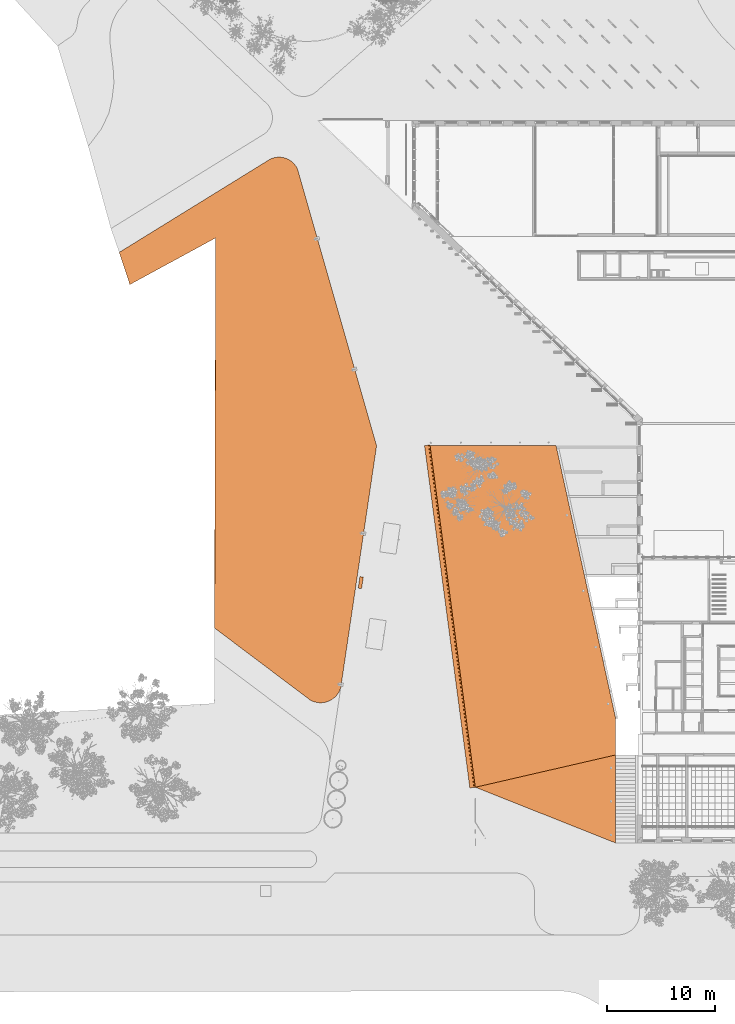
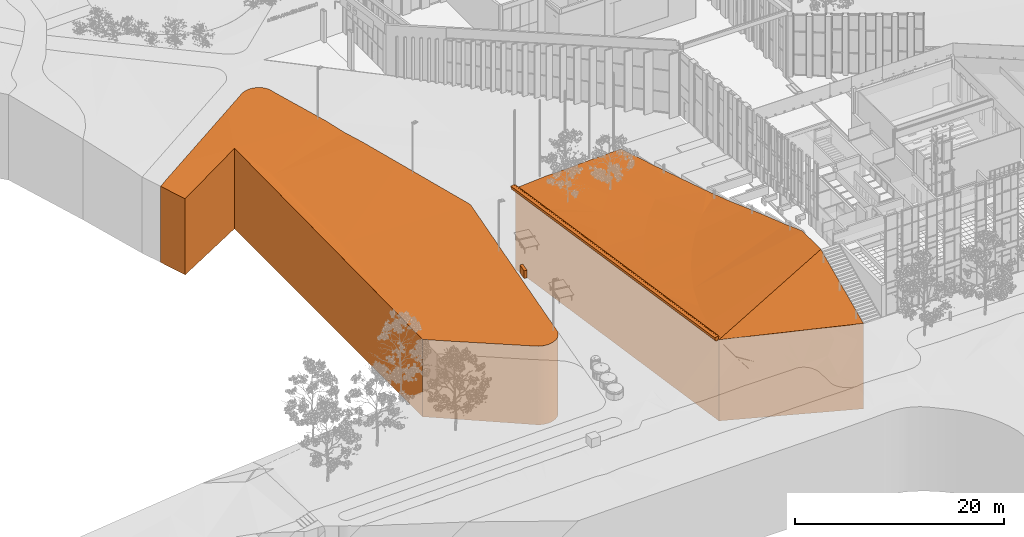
# One storey, part 216 of 246: 4 proxies.
"""IFC2X3 building model written with IfcOpenShell, lengths in millimetres."""

from ifc_helpers import new_model, entity, si_unit, converted_unit, derived_unit, money_unit, direction, frame, origin_with_axes, place, context, subcontext, project, spatial, faceted_brep, material, material_list, type_object, element, save


model = new_model("IFC2X3")

# Units and contexts
model_context = context("Model", 3, precision=0.01, world=origin_with_axes(), true_north=direction((0.0, 1.0)))
body_context = subcontext(model_context, "Body", "Model", "MODEL_VIEW")
ifc_project = project(units=[si_unit("LENGTHUNIT", "METRE", prefix="MILLI"), si_unit("AREAUNIT", "SQUARE_METRE"), si_unit("VOLUMEUNIT", "CUBIC_METRE"), converted_unit("PLANEANGLEUNIT", "DEGREE", entity("IfcPlaneAngleMeasure", 0.0174532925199), si_unit("PLANEANGLEUNIT", "RADIAN"), dimensions=[0, 0, 0, 0, 0, 0, 0]), si_unit("SOLIDANGLEUNIT", "STERADIAN"), money_unit("EUR"), converted_unit("TIMEUNIT", "Year", entity("IfcTimeMeasure", 31556926.0), si_unit("TIMEUNIT", "SECOND"), dimensions=[0, 0, 1, 0, 0, 0, 0]), si_unit("MASSUNIT", "GRAM", prefix="KILO"), si_unit("THERMODYNAMICTEMPERATUREUNIT", "DEGREE_CELSIUS"), si_unit("LUMINOUSINTENSITYUNIT", "LUMEN"), si_unit("ENERGYUNIT", "JOULE", prefix="MEGA"), derived_unit("THERMALCONDUCTANCEUNIT", [(si_unit("POWERUNIT", "WATT"), 1), (si_unit("LENGTHUNIT", "METRE"), -1), (si_unit("THERMODYNAMICTEMPERATUREUNIT", "KELVIN"), -1)]), derived_unit("SPECIFICHEATCAPACITYUNIT", [(si_unit("ENERGYUNIT", "JOULE"), 1), (si_unit("MASSUNIT", "GRAM", prefix="KILO"), -1), (si_unit("THERMODYNAMICTEMPERATUREUNIT", "KELVIN"), -1)]), derived_unit("MASSDENSITYUNIT", [(si_unit("MASSUNIT", "GRAM", prefix="KILO"), 1), (si_unit("VOLUMEUNIT", "CUBIC_METRE"), -1)])], contexts=[model_context])

# Site, building, storey
site_placement = place(None, origin_with_axes())
site = spatial("IfcSite", under=ifc_project, at=site_placement, Name="L.Koidula tn 11b", CompositionType="ELEMENT")
building_placement = place(site_placement, origin_with_axes())
building = spatial("IfcBuilding", under=site, at=building_placement, Name="Rakvere Riigigümnaasium", CompositionType="ELEMENT")
storey_placement = place(building_placement, origin_with_axes())
storey = spatial("IfcBuildingStorey", under=building, at=storey_placement, Name="1.korrus 0,00", CompositionType="ELEMENT", Elevation=0.0)

# Proxies
ifc_material_1 = material(Name="Roheala")
building_element_proxy_type_1 = type_object("IfcBuildingElementProxyType", Name="Roheala", PredefinedType="NOTDEFINED")
proxy_1_placement = place(storey_placement, frame((15776.7035882, 4985.57217605, -10000.0), z_axis=(0.0, 0.0, 1.0), x_axis=(1.0, 0.0, 0.0)))
element("IfcBuildingElementProxy", 1, at=proxy_1_placement, inside=storey, type_object=building_element_proxy_type_1, material=ifc_material_1, Name="Roheala", context=body_context, shape_type="Brep", body=[
    faceted_brep([(7059.96621689, 15493.6348086, 10414.8499999), (5915.26997917, 13048.2833526, 10098.983345), (16683.3088663, 14124.8833492, 13235.0), (2814.38927034, 15647.5324708, 9479.82855391), (17209.2963819, 11714.9063542, 13720.0), (8470.46516382, 17795.9306064, 10768.0778409), (5050.68359697, 10490.4398063, 9923.17591582), (3673.62801673, 18228.2188393, 9755.24278903), (11709.2964639, 36914.8833156, 0.0), (11709.2964639, 36914.8833156, 9976.19260805), (12711.1384335, 32324.6296924, 10445.0), (13530.6251232, 28569.8940544, 10910.0), (14315.2512073, 24974.8832293, 11375.0), (14991.8390912, 21874.8833492, 11840.0), (15515.6490861, 19474.8833492, 12305.0), (16072.1972056, 16924.8833492, 12770.0), (17209.2963819, 11714.9063542, 0.0), (17209.2964639, 8160.88336282, 13720.0), (4477.01322433, 7852.07373552, 9689.62506615), (1676.83143874, 24243.6571087, 9463.28527354), (9711.68796741, 36913.6274559, 0.0), (9711.68796741, 36913.6274559, 9904.52000427), (11900.6444297, 28840.5491743, 10910.0), (14105.2350344, 23567.7994806, 11412.4748353), (12015.2520806, 21858.4006177, 11373.5296607), (10129.1375012, 19926.3951794, 11055.5018643), (17209.2964639, 8160.88336282, 0.0), (17209.513464, 0.0, 0.0), (4201.42896078, 5166.16112832, 0.0), (0.0, 36914.8828201, 0.0), (5516.05311886, 36911.1168794, 0.0), (4817.60246788, 20695.9213762, 10021.4023311), (4201.42896078, 5166.16112832, 9500.0), (661.08497945, 31919.2960273, 9448.51347207), (0.0, 36914.8828201, 9438.89944291), (5516.05311886, 36911.1168794, 9749.85487511), (7591.89065814, 36912.359016, 9850.0), (8632.26220373, 32152.4466509, 10445.0), (9795.9271619, 27117.6450626, 10694.2716784), (17209.513464, 0.0, 10000.0), (1314.24045924, 36913.9855569, 9549.48697168), (3418.23752959, 36912.549108, 9699.68480312), (3078.18180783, 26496.3918323, 9814.24890973), (917.964606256, 32249.242414, 9593.02701112), (6231.80236279, 23019.3395505, 10275.5653956), (4894.06213944, 35890.6467152, 9872.332819), (7898.28987993, 25169.0029452, 10521.4405577), (2804.07918557, 34181.2478523, 9854.35857742), (4718.17091787, 28581.8251952, 10098.0577358), (6577.00821667, 30474.791251, 10279.5694751)], [[[0, 1, 2]], [[3, 1, 0]], [[4, 2, 1]], [[5, 0, 2]], [[3, 6, 1]], [[3, 0, 7]], [[8, 9, 10, 11, 12, 13, 14, 15, 2, 4, 16]], [[17, 4, 1]], [[0, 5, 7]], [[2, 15, 5]], [[3, 18, 6]], [[1, 6, 17]], [[19, 3, 7]], [[20, 21, 9, 8]], [[9, 21, 10]], [[11, 10, 22]], [[11, 22, 12]], [[13, 12, 23]], [[13, 24, 14]], [[15, 14, 25]], [[16, 4, 17, 26]], [[8, 16, 26, 27, 28, 29, 30, 20]], [[31, 7, 5]], [[25, 5, 15]], [[3, 32, 18]], [[6, 18, 17]], [[28, 32, 3, 19, 33, 34, 29]], [[19, 7, 31]], [[30, 35, 36, 21, 20]], [[21, 37, 10]], [[10, 37, 22]], [[22, 38, 12]], [[23, 12, 24]], [[13, 23, 24]], [[24, 25, 14]], [[26, 17, 39, 27]], [[27, 39, 32, 28]], [[29, 34, 40, 41, 35, 30]], [[5, 25, 31]], [[32, 17, 18]], [[33, 19, 42]], [[34, 33, 43]], [[19, 31, 44]], [[35, 45, 36]], [[21, 36, 37]], [[22, 37, 38]], [[24, 12, 38]], [[25, 24, 46]], [[39, 17, 32]], [[40, 34, 47]], [[41, 40, 47]], [[41, 45, 35]], [[44, 31, 25]], [[19, 44, 42]], [[33, 42, 48]], [[33, 48, 43]], [[34, 43, 47]], [[37, 36, 45]], [[49, 38, 37]], [[38, 46, 24]], [[46, 44, 25]], [[41, 47, 45]], [[46, 42, 44]], [[42, 46, 48]], [[47, 43, 48]], [[49, 37, 45]], [[48, 38, 49]], [[38, 48, 46]], [[45, 47, 49]], [[49, 47, 48]]]),
])
proxy_2_placement = place(storey_placement, frame((-13116.1750762, 18002.726002, -10000.0), z_axis=(0.0, 0.0, 1.0), x_axis=(1.0, 0.0, 0.0)))
element("IfcBuildingElementProxy", 2, at=proxy_2_placement, inside=storey, type_object=building_element_proxy_type_1, material=ifc_material_1, Name="Roheala", context=body_context, shape_type="Brep", body=[
    faceted_brep([(21276.8812346, 33137.4453129, 9499.66342909), (21279.6921919, 33127.6076146, 9499.74450561), (23919.8446626, 23887.6866131, 9300.0), (23919.8446543, 23887.6866118, 0.0), (16579.3092395, 49577.857281, 0.0), (16579.3092395, 49577.857281, 9715.4528541), (16756.6122539, 48957.3378715, 9695.52241912), (16910.4609667, 48418.9030757, 9690.19038014), (18630.1146851, 42400.514086, 9699.33273266), (18635.9417936, 42380.1205584, 9699.4394465), (18638.7217983, 42370.3911872, 9698.96394006), (19297.8119996, 40063.7284165, 9549.3318623), (19957.2018374, 37756.0169873, 9599.35898755), (10216.6094138, 37870.0389402, 9130.0), (10206.14164, 24693.7330681, 9110.0), (21353.9402393, 6563.24369116, 9232.6537921), (20591.9784313, 1418.63901514, 9243.63252766), (20591.9784313, 1418.63901514, 0.0), (22259.8297422, 12679.6176656, 9250.0), (21449.5671846, 7208.89656354, 9237.69747041), (20563.7815193, 1324.06584314, 0.0), (20513.523049, 1192.1565167, 0.0), (20453.87731, 1064.21758576, 0.0), (20385.1552674, 940.916064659, 0.0), (20307.7152063, 822.894790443, 0.0), (20221.9608632, 710.769071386, 0.0), (20128.3393215, 605.123479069, 0.0), (20027.3386807, 506.508800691, 0.0), (19919.4855113, 415.439167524, 0.0), (19805.3421098, 332.389374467, 0.0), (19685.503567, 257.792404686, 0.0), (19560.5946657, 192.037172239, 0.0), (19431.2666229, 135.466494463, 0.0), (19298.1936952, 88.3753046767, 0.0), (19162.0696633, 51.0091145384, 0.0), (19023.6042147, 23.562734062, 0.0), (18883.5192444, 6.17925596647, 0.0), (18742.5450903, -1.05069034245, 0.0), (18601.4167265, 1.91058872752, 0.0), (18460.869931, 15.0476544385, 0.0), (18321.6374495, 38.2920162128, 0.0), (18184.445176, 71.5224887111, 0.0), (18050.0083672, 114.565823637, 0.0), (17919.0279145, 167.197612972, 0.0), (17792.1866893, 229.143458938, 0.0), (17731.1663362, 264.611931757, 0.0), (8851.80878225, 6953.5675484, 0.0), (8958.46702321, 43199.7824755, 0.0), (988.489768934, 38866.2151216, 0.0), (0.0, 41861.2564464, 0.0), (13953.4886778, 50480.4994572, 0.0), (14101.9841559, 50554.4165839, 0.0), (14230.0706255, 50604.6435082, 0.0), (14361.4817268, 50645.3867292, 0.0), (14495.5163249, 50676.4288641, 0.0), (14631.459287, 50697.6042898, 0.0), (14768.5852988, 50708.8000262, 0.0), (14906.1627335, 50709.9563391, 0.0), (15043.4575561, 50701.0670592, 0.0), (15179.7372393, 50682.1796145, 0.0), (15314.2746719, 50653.3947779, 0.0), (15446.3520387, 50614.8661288, 0.0), (15575.2646496, 50566.7992343, 0.0), (15700.3247002, 50509.450552, 0.0), (15820.8649409, 50443.126062, 0.0), (15936.2422375, 50368.1796341, 0.0), (16045.841002, 50285.0111399, 0.0), (16149.0764778, 50194.0643194, 0.0), (16245.3978588, 50095.8244132, 0.0), (16334.2912288, 49990.8155737, 0.0), (16415.2823032, 49879.5980684, 0.0), (16487.9389596, 49762.765291, 0.0), (16551.8735433, 49640.9405947, 0.0), (16551.8735433, 49640.9405947, 9717.04185842), (16487.9389596, 49762.765291, 9719.60175344), (16415.2823032, 49879.5980684, 9721.52987673), (16334.2912288, 49990.8155737, 9722.8159409), (16245.3978588, 50095.8244132, 9723.45308424), (16149.0764778, 50194.0643194, 9723.43790732), (16045.841002, 50285.0111399, 9722.77049111), (15936.2422375, 50368.1796341, 9721.45439657), (15820.8649409, 50443.126062, 9719.49664564), (15700.3247002, 50509.450552, 9716.90768376), (15575.2646496, 50566.7992343, 9713.70132415), (15446.3520387, 50614.8661288, 9709.89467415), (15314.2746719, 50653.3947779, 9705.50804387), (15179.7372393, 50682.1796145, 9700.56483788), (15043.4575561, 50701.0670592, 9695.09143033), (14906.1627335, 50709.9563391, 9689.11702422), (14768.5852988, 50708.8000262, 9682.67349558), (14631.459287, 50697.6042898, 9675.79522342), (14495.5163249, 50676.4288641, 9668.51890632), (14361.4817268, 50645.3867292, 9660.88336656), (14230.0706255, 50604.6435082, 9652.92934305), (14101.9841559, 50554.4165839, 9644.69927396), (13953.488676, 50480.4994602, 9634.44576586), (13491.0897518, 50194.86991, 9600.0), (11477.4942666, 48951.047004, 9500.0), (8958.46702423, 43199.7824771, 9400.0), (10016.8495213, 37879.8361506, 9130.0), (10006.3817475, 24703.5302786, 9110.0), (22256.3753339, 12773.5376558, 9250.0), (11174.846754, 5203.58757578, 9075.74893717), (17731.1663362, 264.611931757, 9203.01308165), (17792.1866893, 229.143458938, 9204.15023148), (17919.0279145, 167.197612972, 9206.46090221), (18050.0083672, 114.565823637, 9208.79589727), (18184.445176, 71.5224887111, 9211.14304307), (18321.6374495, 38.2920162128, 9213.49010268), (18460.869931, 15.0476544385, 9215.82483962), (18601.4167265, 1.91058872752, 9218.13508165), (18742.5450903, -1.05069034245, 9220.40878423), (18883.5192444, 6.17925596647, 9222.63409334), (19023.6042147, 23.562734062, 9224.79940725), (19162.0696633, 51.0091145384, 9226.893437), (19298.1936952, 88.3753046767, 9228.90526531), (19431.2666229, 135.466494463, 9230.82440342), (19560.5946657, 192.037172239, 9232.64084584), (19685.503567, 257.792404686, 9234.34512248), (19805.3421098, 332.389374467, 9235.92834803), (19919.4855113, 415.439167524, 9237.38226829), (20027.3386807, 506.508800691, 9238.69930319), (20128.3393215, 605.123479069, 9239.87258631), (20221.9608632, 710.769071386, 9240.89600071), (20307.7152063, 822.894790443, 9241.76421077), (20385.1552674, 940.916064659, 9242.47269006), (20453.87731, 1064.21758576, 9243.01774488), (20513.523049, 1192.1565167, 9243.39653357), (20563.7815193, 1324.06584314, 9243.60708131), (9087.59483864, 13155.6743904, 9090.0), (9425.85230822, 6521.13179571, 9057.53825505), (8861.19259545, 6946.49857864, 9038.29199196), (8851.8087826, 6953.5675484, 9048.12850532), (9260.23487885, 6645.89393392, 9058.14869603), (9218.02354218, 6677.69237833, 9058.29434071), (8971.0199709, 6863.76393986, 9062.1647646), (988.489769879, 38866.2151226, 8900.0), (9.82952386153e-07, 41861.2564481, 8900.0), (1409.5168406, 42731.9324817, 9000.0), (3423.11232591, 43975.7553867, 9100.0), (8887.83494615, 13165.4716008, 9090.0)], [[[0, 1, 2, 3, 4, 5, 6, 7, 8, 9, 10, 11, 12]], [[1, 0, 13, 14]], [[2, 1, 14]], [[15, 16, 17, 3, 2, 18, 19]], [[3, 17, 20, 21, 22, 23, 24, 25, 26, 27, 28, 29, 30, 31, 32, 33, 34, 35, 36, 37, 38, 39, 40, 41, 42, 43, 44, 45, 46, 47, 48, 49, 50, 51, 52, 53, 54, 55, 56, 57, 58, 59, 60, 61, 62, 63, 64, 65, 66, 67, 68, 69, 70, 71, 72, 4]], [[73, 5, 4, 72]], [[6, 5, 73, 74, 75, 76, 77, 78, 79, 80, 81, 82, 83, 84, 85, 86, 87, 88, 89, 90, 91, 92, 93, 94, 95, 96]], [[7, 6, 96, 97]], [[8, 7, 97]], [[9, 8, 97, 98]], [[10, 9, 98, 13]], [[11, 10, 13]], [[12, 11, 13]], [[0, 12, 13]], [[99, 100, 14, 13]], [[2, 14, 101]], [[16, 15, 102, 103, 104, 105, 106, 107, 108, 109, 110, 111, 112, 113, 114, 115, 116, 117, 118, 119, 120, 121, 122, 123, 124, 125, 126, 127, 128]], [[16, 128, 20, 17]], [[18, 2, 101]], [[19, 18, 101, 129]], [[15, 19, 129, 130, 102]], [[128, 127, 21, 20]], [[127, 126, 22, 21]], [[126, 125, 23, 22]], [[125, 124, 24, 23]], [[124, 123, 25, 24]], [[123, 122, 26, 25]], [[122, 121, 27, 26]], [[121, 120, 28, 27]], [[120, 119, 29, 28]], [[119, 118, 30, 29]], [[118, 117, 31, 30]], [[117, 116, 32, 31]], [[116, 115, 33, 32]], [[115, 114, 34, 33]], [[114, 113, 35, 34]], [[113, 112, 36, 35]], [[112, 111, 37, 36]], [[111, 110, 38, 37]], [[110, 109, 39, 38]], [[109, 108, 40, 39]], [[108, 107, 41, 40]], [[107, 106, 42, 41]], [[106, 105, 43, 42]], [[105, 104, 44, 43]], [[104, 103, 45, 44]], [[131, 132, 46, 45, 103, 102, 130, 133, 134, 135]], [[132, 98, 47, 46]], [[98, 136, 48, 47]], [[136, 137, 49, 48]], [[96, 95, 50, 49, 137, 138, 139, 97]], [[95, 94, 51, 50]], [[94, 93, 52, 51]], [[93, 92, 53, 52]], [[92, 91, 54, 53]], [[91, 90, 55, 54]], [[90, 89, 56, 55]], [[89, 88, 57, 56]], [[88, 87, 58, 57]], [[87, 86, 59, 58]], [[86, 85, 60, 59]], [[85, 84, 61, 60]], [[84, 83, 62, 61]], [[83, 82, 63, 62]], [[82, 81, 64, 63]], [[81, 80, 65, 64]], [[80, 79, 66, 65]], [[79, 78, 67, 66]], [[78, 77, 68, 67]], [[77, 76, 69, 68]], [[76, 75, 70, 69]], [[75, 74, 71, 70]], [[74, 73, 72, 71]], [[97, 139, 98]], [[98, 99, 13]], [[99, 98, 100]], [[14, 100, 140, 129]], [[14, 129, 101]], [[133, 130, 129]], [[98, 132, 131, 140]], [[134, 133, 129, 140]], [[135, 134, 140]], [[131, 135, 140]], [[136, 98, 139]], [[137, 136, 138]], [[139, 138, 136]], [[100, 98, 140]]]),
])
ifc_material_2 = material(Name="Betoon")
ifc_material_3 = material(Name="Puit-pink")
ifc_material_list = material_list([ifc_material_2, ifc_material_3])
building_element_proxy_type_2 = type_object("IfcBuildingElementProxyType", Name="PINK llaudisega 514 x 450", PredefinedType="NOTDEFINED")
proxy_3_placement = place(storey_placement, frame((15978.1520182, 41993.8512751, -508.771151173), z_axis=(0.0, 0.0, 1.0), x_axis=(-0.99135723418, -0.131190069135, 0.0)))
element("IfcBuildingElementProxy", 3, at=proxy_3_placement, inside=storey, type_object=building_element_proxy_type_2, material=ifc_material_list, Name="Pink", context=body_context, shape_type="Brep", body=[
    faceted_brep([(330.567966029, 32091.4668622, 413.771818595), (327.006798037, 32091.4668622, 413.771819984), (327.006798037, 0.0, 352.545426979), (330.567966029, 0.0, 352.54542559), (662.126380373, 32091.4668622, 413.771819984), (666.056743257, 32091.4668622, 411.86248757), (666.985363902, 32091.4668622, 407.59270778), (583.791921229, 32091.4668622, 64.7583674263), (570.205858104, 32091.4668622, 8.77115064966), (319.801002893, 32091.4668622, 8.77115117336), (212.101038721, 32091.4668622, 452.595142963), (211.960022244, 32091.4668622, 453.77424609), (213.424488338, 32091.4668622, 457.30978643), (216.960022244, 32091.4668622, 458.77425519), (325.210395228, 32091.4668622, 458.77425519), (329.140758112, 32091.4668622, 456.864922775), (330.069378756, 32091.4668622, 452.595142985), (322.147814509, 32091.4668622, 419.950932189), (323.076435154, 32091.4668622, 415.681152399), (323.076435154, 0.0, 354.454759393), (322.147814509, 0.0, 358.724539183), (330.069378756, 0.0, 391.36874998), (329.140758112, 0.0, 395.63852977), (325.210395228, 0.0, 397.547862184), (216.960022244, 0.0, 397.547862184), (213.424488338, 0.0, 396.083393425), (211.960022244, 0.0, 392.547853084), (212.101038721, 0.0, 391.368749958), (319.801002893, 0.0, -52.4552418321), (570.205858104, 0.0, -52.4552423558), (583.791921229, 0.0, 3.53197442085), (666.985363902, 0.0, 346.366314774), (666.056743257, 0.0, 350.636094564), (662.126380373, 0.0, 352.545426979)], [[[0, 1, 2, 3]], [[0, 4, 5, 6, 7, 8, 9, 10, 11, 12, 13, 14, 15, 16, 17, 18, 1]], [[1, 18, 19, 2]], [[3, 2, 19, 20, 21, 22, 23, 24, 25, 26, 27, 28, 29, 30, 31, 32, 33]], [[4, 0, 3, 33]], [[5, 4, 33, 32]], [[6, 5, 32, 31]], [[7, 6, 31, 30]], [[8, 7, 30, 29]], [[9, 8, 29, 28]], [[10, 9, 28, 27]], [[11, 10, 27, 26]], [[12, 11, 26, 25]], [[13, 12, 25, 24]], [[14, 13, 24, 23]], [[15, 14, 23, 22]], [[16, 15, 22, 21]], [[17, 16, 21, 20]], [[18, 17, 20, 19]]]),
    faceted_brep([(341.626517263, 32091.4668622, 458.774255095), (330.567966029, 32091.4668622, 413.771818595), (330.567966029, 0.0, 352.54542559), (341.626517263, 0.0, 397.54786209), (725.711246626, 32091.4668622, 458.774255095), (630.097906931, 32091.4668622, 64.7583674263), (583.791921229, 32091.4668622, 64.7583674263), (666.985363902, 32091.4668622, 407.59270778), (668.484809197, 32091.4668622, 413.771818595), (662.126380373, 32091.4668622, 413.771819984), (662.126380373, 0.0, 352.545426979), (668.484809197, 0.0, 352.54542559), (666.985363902, 0.0, 346.366314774), (583.791921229, 0.0, 3.53197442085), (630.097906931, 0.0, 3.53197442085), (725.711246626, 0.0, 397.54786209)], [[[0, 1, 2, 3]], [[0, 4, 5, 6, 7, 8, 9, 1]], [[1, 9, 10, 2]], [[3, 2, 10, 11, 12, 13, 14, 15]], [[4, 0, 3, 15]], [[5, 4, 15, 14]], [[6, 5, 14, 13]], [[7, 6, 13, 12]], [[8, 7, 12, 11]], [[9, 8, 11, 10]]]),
])
ifc_material_4 = material(Name="ET-05_Teras")
building_element_proxy_type_3 = type_object("IfcBuildingElementProxyType", Name="ET-05_Teras 320", PredefinedType="NOTDEFINED")
proxy_4_placement = place(storey_placement, frame((9250.73364178, 29730.0403968, -752.594933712), z_axis=(0.0, 0.0, 1.0), x_axis=(-0.146815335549, -0.98916391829, 0.0)))
element("IfcBuildingElementProxy", 4, at=proxy_4_placement, inside=storey, type_object=building_element_proxy_type_3, material=ifc_material_4, Name="KMA-332", context=body_context, shape_type="Brep", body=[
    faceted_brep([(0.0, 320.0, 0.0), (1080.0, 320.0, 0.0), (1080.0, 0.0, 0.0), (0.0, 0.0, 0.0), (0.0, 320.0, 900.0), (1080.0, 320.0, 900.0), (1080.0, 0.0, 900.0), (0.0, 0.0, 900.0)], [[[0, 1, 2, 3]], [[4, 5, 1, 0]], [[2, 1, 5, 6]], [[3, 2, 6, 7]], [[4, 0, 3, 7]], [[7, 6, 5, 4]]]),
])

save(model, "model.ifc")
